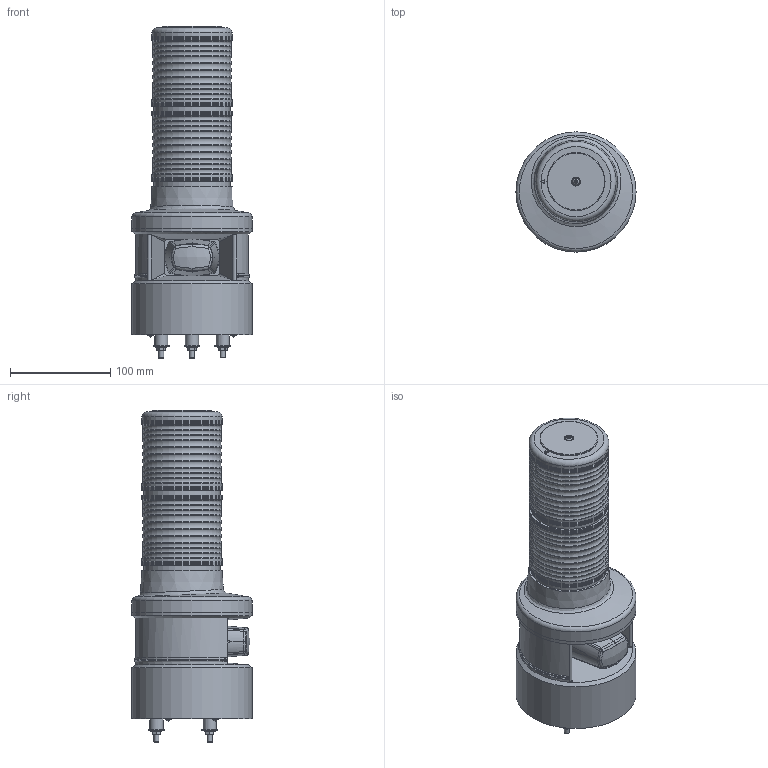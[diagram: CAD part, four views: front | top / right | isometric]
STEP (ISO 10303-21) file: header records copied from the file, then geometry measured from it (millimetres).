
FILE_DESCRIPTION(('STEP AP214'), '1');
FILE_NAME('TLF100B-RG', '', ('UNSPECIFIED'), ('UNSPECIFIED'), 'C3D Converter', 'C3D Toolkit', '');
FILE_SCHEMA(('AUTOMOTIVE_DESIGN { 1 0 10303 214 3 1 1}'));
Length unit declared in the file: millimetre
Assembly tree (28 placements, depth 2):
  (unnamed)
    (unnamed)
    (unnamed)
    (unnamed)
    (unnamed)
    (unnamed)
    (unnamed)
    (unnamed)  x3
    (unnamed)  x3
    (unnamed)  x3
    (unnamed)  x3
    (unnamed)  x3
    (unnamed)  x2
    (unnamed)  x4
    (unnamed)
Bounding box: 120 x 120 x 331.95 mm (x, y, z)
Volume: 1480047.6 mm3; surface area: 227756.3 mm2
Topology: 28 solids, 30 shells, 639 faces, 1479 edges, 918 vertices
Faces by surface type: plane 283, cylinder 129, cone 86, bspline 72, torus 60, sphere 9
Full cylindrical faces by diameter (mm): 2.5 x2, 3 x6, 3.3 x2, 4 x1, 4.5 x2, 4.917 x6, 5 x16, 5.5 x4, 7 x1, 8 x1, 8.9 x3, 11 x3, 12 x1, 13.1 x3, 15.7 x3, 58 x1, 72 x2, 76 x4, 80 x17, 120 x3
Entity records: 23370 total; most frequent: CARTESIAN_POINT 11899, DIRECTION 1498, ORIENTED_EDGE 1474, EDGE_CURVE 745, AXIS2_PLACEMENT_3D 649, EDGE_LOOP 563, VERTEX_POINT 535, ADVANCED_FACE 393
